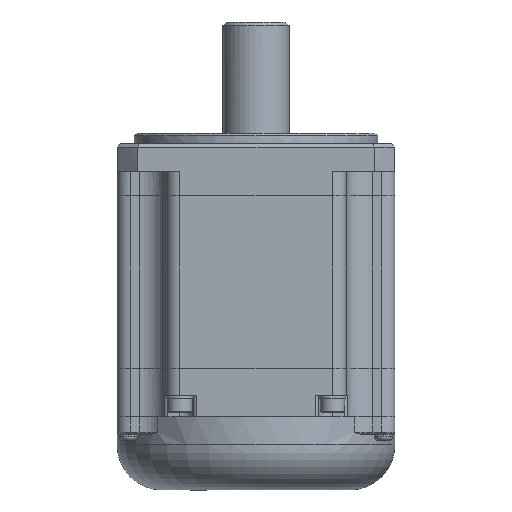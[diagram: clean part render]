
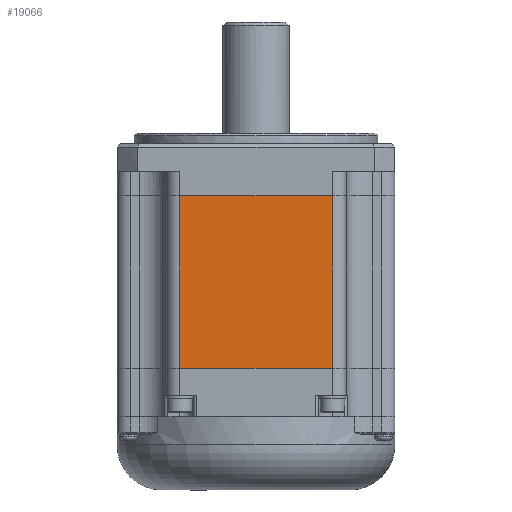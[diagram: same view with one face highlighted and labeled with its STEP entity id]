
A CAD part, front view. The second image highlights one B-rep face of the part: STEP entity #19066.
In plain terms, the highlighted planar face has unit normal (0, -1, 0).
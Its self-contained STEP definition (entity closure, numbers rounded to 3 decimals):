
#1594 = CARTESIAN_POINT ( 'NONE',  ( -36.569, -8.449, -45.765 ) ) ;
#1595 = DIRECTION ( 'NONE',  ( 0., 0., 1. ) ) ;
#1596 = CARTESIAN_POINT ( 'NONE',  ( -36.569, -8.449, 12.235 ) ) ;
#1597 = DIRECTION ( 'NONE',  ( 1., 0., 0. ) ) ;
#1598 = CARTESIAN_POINT ( 'NONE',  ( -80.569, -8.449, -45.765 ) ) ;
#1599 = DIRECTION ( 'NONE',  ( 0., 0., -1. ) ) ;
#2015 = EDGE_CURVE ( 'NONE', #8023, #8020, #14381, .T. ) ;
#2992 = LINE ( 'NONE', #1594, #2994 ) ;
#2994 = VECTOR ( 'NONE', #1595, 1000. ) ;
#2995 = LINE ( 'NONE', #1596, #2996 ) ;
#2996 = VECTOR ( 'NONE', #1597, 1000. ) ;
#2997 = LINE ( 'NONE', #1598, #2998 ) ;
#2998 = VECTOR ( 'NONE', #1599, 1000. ) ;
#4567 = ORIENTED_EDGE ( 'NONE', *, *, #15891, .T. ) ;
#4568 = ORIENTED_EDGE ( 'NONE', *, *, #15892, .F. ) ;
#4569 = ORIENTED_EDGE ( 'NONE', *, *, #15893, .T. ) ;
#4570 = ORIENTED_EDGE ( 'NONE', *, *, #2015, .F. ) ;
#6785 = AXIS2_PLACEMENT_3D ( 'NONE', #20672, #20673, #20674 ) ;
#8020 = VERTEX_POINT ( 'NONE', #10162 ) ;
#8021 = VERTEX_POINT ( 'NONE', #10163 ) ;
#8022 = VERTEX_POINT ( 'NONE', #10164 ) ;
#8023 = VERTEX_POINT ( 'NONE', #10165 ) ;
#8060 = FACE_OUTER_BOUND ( 'NONE', #21912, .T. ) ;
#10162 = CARTESIAN_POINT ( 'NONE',  ( -80.569, -8.449, -37.465 ) ) ;
#10163 = CARTESIAN_POINT ( 'NONE',  ( -36.569, -8.449, 12.235 ) ) ;
#10164 = CARTESIAN_POINT ( 'NONE',  ( -80.569, -8.449, 12.235 ) ) ;
#10165 = CARTESIAN_POINT ( 'NONE',  ( -36.569, -8.449, -37.465 ) ) ;
#13277 = CARTESIAN_POINT ( 'NONE',  ( -24.565, -8.449, -37.465 ) ) ;
#13279 = DIRECTION ( 'NONE',  ( -1., 0., 0. ) ) ;
#14381 = LINE ( 'NONE', #13277, #14382 ) ;
#14382 = VECTOR ( 'NONE', #13279, 1000. ) ;
#15891 = EDGE_CURVE ( 'NONE', #8023, #8021, #2992, .T. ) ;
#15892 = EDGE_CURVE ( 'NONE', #8022, #8021, #2995, .T. ) ;
#15893 = EDGE_CURVE ( 'NONE', #8022, #8020, #2997, .T. ) ;
#19066 = ADVANCED_FACE ( 'NONE', ( #8060 ), #20671, .T. ) ;
#20671 = PLANE ( 'NONE',  #6785 ) ;
#20672 = CARTESIAN_POINT ( 'NONE',  ( -40.193, -8.449, -50.85 ) ) ;
#20673 = DIRECTION ( 'NONE',  ( 0., -1., 0. ) ) ;
#20674 = DIRECTION ( 'NONE',  ( -1., 0., 0. ) ) ;
#21912 = EDGE_LOOP ( 'NONE', ( #4567, #4568, #4569, #4570 ) ) ;
